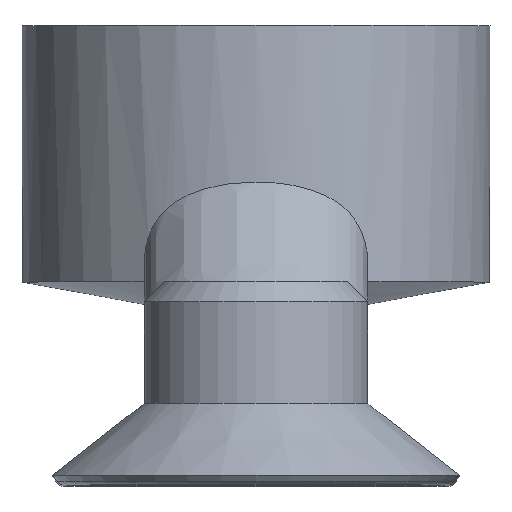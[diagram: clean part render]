
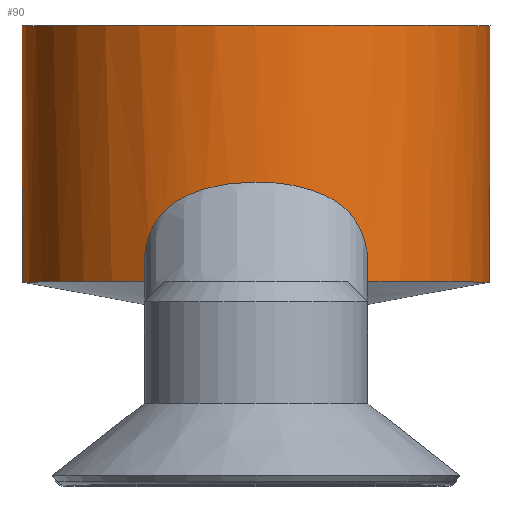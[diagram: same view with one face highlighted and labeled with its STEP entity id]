
A CAD part, top view. The second image highlights one B-rep face of the part: STEP entity #90.
In plain terms, the highlighted cylindrical face has radius 5.75 mm (diameter 11.5 mm), a full revolution.
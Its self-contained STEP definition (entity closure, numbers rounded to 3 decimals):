
#90=ADVANCED_FACE('',(#207,#208),#209,.T.);
#207=FACE_OUTER_BOUND('',#351,.T.);
#208=FACE_OUTER_BOUND('',#352,.T.);
#209=CYLINDRICAL_SURFACE('',#353,5.75);
#351=EDGE_LOOP('',(#605));
#352=EDGE_LOOP('',(#606,#607,#608,#609,#610,#611,#612,#613,#614,#615));
#353=AXIS2_PLACEMENT_3D('',#616,#617,#618);
#605=ORIENTED_EDGE('',*,*,#959,.T.);
#606=ORIENTED_EDGE('',*,*,#960,.T.);
#607=ORIENTED_EDGE('',*,*,#961,.T.);
#608=ORIENTED_EDGE('',*,*,#962,.T.);
#609=ORIENTED_EDGE('',*,*,#963,.F.);
#610=ORIENTED_EDGE('',*,*,#964,.F.);
#611=ORIENTED_EDGE('',*,*,#950,.F.);
#612=ORIENTED_EDGE('',*,*,#949,.F.);
#613=ORIENTED_EDGE('',*,*,#905,.F.);
#614=ORIENTED_EDGE('',*,*,#965,.F.);
#615=ORIENTED_EDGE('',*,*,#903,.T.);
#616=CARTESIAN_POINT('',(0.0,0.0,0.0));
#617=DIRECTION('',(0.0,1.0,0.0));
#618=DIRECTION('',(0.0,0.0,-1.0));
#903=EDGE_CURVE('',#1032,#1033,#1034,.T.);
#905=EDGE_CURVE('',#1035,#1037,#1038,.T.);
#949=EDGE_CURVE('',#1037,#1108,#1109,.T.);
#950=EDGE_CURVE('',#1108,#1110,#1111,.T.);
#959=EDGE_CURVE('',#1124,#1124,#1125,.T.);
#960=EDGE_CURVE('',#1033,#1126,#1127,.T.);
#961=EDGE_CURVE('',#1126,#1128,#1129,.T.);
#962=EDGE_CURVE('',#1128,#1130,#1131,.F.);
#963=EDGE_CURVE('',#1132,#1130,#1133,.F.);
#964=EDGE_CURVE('',#1110,#1132,#1134,.F.);
#965=EDGE_CURVE('',#1032,#1035,#1135,.F.);
#1032=VERTEX_POINT('',#1216);
#1033=VERTEX_POINT('',#1217);
#1034=LINE('',#1218,#1219);
#1035=VERTEX_POINT('',#1220);
#1037=VERTEX_POINT('',#1233);
#1038=LINE('',#1234,#1235);
#1108=VERTEX_POINT('',#1325);
#1109=B_SPLINE_CURVE_WITH_KNOTS('',3,(#1326,#1327,#1328,#1329,#1330,#1331,#1332,#1333,#1334,#1335,#1336,#1337,#1338,#1339,#1340,#1341,#1342,#1343,#1344),.UNSPECIFIED.,.F.,.F.,(4,1,1,1,1,1,1,1,1,1,1,1,1,1,1,1,4),(0.0,0.039,0.077,0.113,0.149,0.184,0.218,0.25,0.313,0.376,0.501,0.626,0.685,0.751,0.819,0.902,1.0),.UNSPECIFIED.);
#1110=VERTEX_POINT('',#1345);
#1111=B_SPLINE_CURVE_WITH_KNOTS('',3,(#1346,#1347,#1348,#1349,#1350,#1351,#1352,#1353,#1354,#1355,#1356,#1357,#1358,#1359,#1360,#1361,#1362,#1363),.UNSPECIFIED.,.F.,.F.,(4,1,1,1,1,1,1,1,1,1,1,1,1,1,1,4),(0.0,0.051,0.098,0.142,0.181,0.217,0.249,0.315,0.374,0.499,0.642,0.749,0.811,0.874,0.934,1.0),.UNSPECIFIED.);
#1124=VERTEX_POINT('',#1417);
#1125=CIRCLE('',#1418,5.75);
#1126=VERTEX_POINT('',#1419);
#1127=B_SPLINE_CURVE_WITH_KNOTS('',3,(#1420,#1421,#1422,#1423,#1424,#1425,#1426,#1427,#1428,#1429,#1430,#1431,#1432,#1433,#1434,#1435,#1436),.UNSPECIFIED.,.F.,.F.,(4,1,1,1,1,1,1,1,1,1,1,1,1,1,4),(0.0,0.038,0.076,0.112,0.147,0.182,0.216,0.251,0.371,0.501,0.62,0.751,0.832,0.915,1.0),.UNSPECIFIED.);
#1128=VERTEX_POINT('',#1437);
#1129=B_SPLINE_CURVE_WITH_KNOTS('',3,(#1438,#1439,#1440,#1441,#1442,#1443,#1444,#1445,#1446,#1447,#1448,#1449,#1450,#1451,#1452),.UNSPECIFIED.,.F.,.F.,(4,1,1,1,1,1,1,1,1,1,1,1,4),(0.0,0.051,0.102,0.151,0.2,0.249,0.38,0.499,0.629,0.749,0.829,0.912,1.0),.UNSPECIFIED.);
#1130=VERTEX_POINT('',#1453);
#1131=LINE('',#1454,#1455);
#1132=VERTEX_POINT('',#1456);
#1133=CIRCLE('',#1457,5.75);
#1134=LINE('',#1458,#1459);
#1135=CIRCLE('',#1460,5.75);
#1216=CARTESIAN_POINT('',(2.75,5.0,-5.05));
#1217=CARTESIAN_POINT('',(2.75,5.4,-5.05));
#1218=CARTESIAN_POINT('',(2.75,0.,-5.05));
#1219=VECTOR('',#1608,1.0);
#1220=CARTESIAN_POINT('',(2.75,5.0,5.05));
#1233=CARTESIAN_POINT('',(2.75,5.4,5.05));
#1234=CARTESIAN_POINT('',(2.75,0.,5.05));
#1235=VECTOR('',#1609,1.0);
#1325=CARTESIAN_POINT('',(0.,7.45,5.75));
#1326=CARTESIAN_POINT('',(2.75,5.4,5.05));
#1327=CARTESIAN_POINT('',(2.749,5.452,5.05));
#1328=CARTESIAN_POINT('',(2.748,5.553,5.051));
#1329=CARTESIAN_POINT('',(2.734,5.703,5.058));
#1330=CARTESIAN_POINT('',(2.712,5.846,5.07));
#1331=CARTESIAN_POINT('',(2.681,5.983,5.087));
#1332=CARTESIAN_POINT('',(2.641,6.113,5.108));
#1333=CARTESIAN_POINT('',(2.594,6.236,5.132));
#1334=CARTESIAN_POINT('',(2.522,6.387,5.168));
#1335=CARTESIAN_POINT('',(2.413,6.559,5.22));
#1336=CARTESIAN_POINT('',(2.205,6.801,5.313));
#1337=CARTESIAN_POINT('',(1.885,7.04,5.438));
#1338=CARTESIAN_POINT('',(1.525,7.202,5.548));
#1339=CARTESIAN_POINT('',(1.218,7.299,5.621));
#1340=CARTESIAN_POINT('',(0.974,7.358,5.669));
#1341=CARTESIAN_POINT('',(0.695,7.406,5.71));
#1342=CARTESIAN_POINT('',(0.369,7.442,5.743));
#1343=CARTESIAN_POINT('',(0.13,7.447,5.747));
#1344=CARTESIAN_POINT('',(0.,7.45,5.75));
#1345=CARTESIAN_POINT('',(-2.75,5.4,5.05));
#1346=CARTESIAN_POINT('',(0.,7.45,5.75));
#1347=CARTESIAN_POINT('',(-0.067,7.449,5.749));
#1348=CARTESIAN_POINT('',(-0.197,7.448,5.748));
#1349=CARTESIAN_POINT('',(-0.384,7.437,5.738));
#1350=CARTESIAN_POINT('',(-0.555,7.421,5.724));
#1351=CARTESIAN_POINT('',(-0.709,7.402,5.707));
#1352=CARTESIAN_POINT('',(-0.847,7.38,5.688));
#1353=CARTESIAN_POINT('',(-1.019,7.347,5.66));
#1354=CARTESIAN_POINT('',(-1.218,7.299,5.621));
#1355=CARTESIAN_POINT('',(-1.525,7.202,5.548));
#1356=CARTESIAN_POINT('',(-1.906,7.031,5.432));
#1357=CARTESIAN_POINT('',(-2.285,6.738,5.281));
#1358=CARTESIAN_POINT('',(-2.518,6.41,5.17));
#1359=CARTESIAN_POINT('',(-2.639,6.133,5.109));
#1360=CARTESIAN_POINT('',(-2.704,5.899,5.075));
#1361=CARTESIAN_POINT('',(-2.743,5.653,5.053));
#1362=CARTESIAN_POINT('',(-2.748,5.487,5.051));
#1363=CARTESIAN_POINT('',(-2.75,5.4,5.05));
#1417=CARTESIAN_POINT('',(0.0,11.3,-5.75));
#1418=AXIS2_PLACEMENT_3D('',#1672,#1673,#1674);
#1419=CARTESIAN_POINT('',(0.,7.45,-5.75));
#1420=CARTESIAN_POINT('',(2.75,5.4,-5.05));
#1421=CARTESIAN_POINT('',(2.749,5.451,-5.05));
#1422=CARTESIAN_POINT('',(2.748,5.551,-5.051));
#1423=CARTESIAN_POINT('',(2.734,5.698,-5.058));
#1424=CARTESIAN_POINT('',(2.713,5.84,-5.07));
#1425=CARTESIAN_POINT('',(2.683,5.976,-5.086));
#1426=CARTESIAN_POINT('',(2.644,6.107,-5.106));
#1427=CARTESIAN_POINT('',(2.595,6.233,-5.131));
#1428=CARTESIAN_POINT('',(2.49,6.453,-5.184));
#1429=CARTESIAN_POINT('',(2.273,6.75,-5.286));
#1430=CARTESIAN_POINT('',(1.896,7.033,-5.434));
#1431=CARTESIAN_POINT('',(1.455,7.235,-5.57));
#1432=CARTESIAN_POINT('',(1.04,7.348,-5.66));
#1433=CARTESIAN_POINT('',(0.66,7.411,-5.715));
#1434=CARTESIAN_POINT('',(0.334,7.444,-5.744));
#1435=CARTESIAN_POINT('',(0.112,7.448,-5.748));
#1436=CARTESIAN_POINT('',(0.,7.45,-5.75));
#1437=CARTESIAN_POINT('',(-2.75,5.4,-5.05));
#1438=CARTESIAN_POINT('',(0.0,7.45,-5.75));
#1439=CARTESIAN_POINT('',(-0.068,7.449,-5.749));
#1440=CARTESIAN_POINT('',(-0.202,7.448,-5.748));
#1441=CARTESIAN_POINT('',(-0.401,7.436,-5.737));
#1442=CARTESIAN_POINT('',(-0.597,7.417,-5.72));
#1443=CARTESIAN_POINT('',(-0.788,7.39,-5.697));
#1444=CARTESIAN_POINT('',(-1.081,7.337,-5.651));
#1445=CARTESIAN_POINT('',(-1.455,7.235,-5.57));
#1446=CARTESIAN_POINT('',(-1.896,7.033,-5.434));
#1447=CARTESIAN_POINT('',(-2.272,6.751,-5.286));
#1448=CARTESIAN_POINT('',(-2.525,6.407,-5.167));
#1449=CARTESIAN_POINT('',(-2.665,6.066,-5.096));
#1450=CARTESIAN_POINT('',(-2.738,5.742,-5.056));
#1451=CARTESIAN_POINT('',(-2.746,5.517,-5.052));
#1452=CARTESIAN_POINT('',(-2.75,5.4,-5.05));
#1453=CARTESIAN_POINT('',(-2.75,5.0,-5.05));
#1454=CARTESIAN_POINT('',(-2.75,0.,-5.05));
#1455=VECTOR('',#1675,1.0);
#1456=CARTESIAN_POINT('',(-2.75,5.0,5.05));
#1457=AXIS2_PLACEMENT_3D('',#1676,#1677,#1678);
#1458=CARTESIAN_POINT('',(-2.75,0.,5.05));
#1459=VECTOR('',#1679,1.0);
#1460=AXIS2_PLACEMENT_3D('',#1680,#1681,#1682);
#1608=DIRECTION('',(0.0,1.0,0.0));
#1609=DIRECTION('',(0.0,1.0,0.0));
#1672=CARTESIAN_POINT('',(0.0,11.3,0.0));
#1673=DIRECTION('',(0.0,-1.0,0.0));
#1674=DIRECTION('',(0.0,0.0,-1.0));
#1675=DIRECTION('',(0.0,1.0,0.0));
#1676=CARTESIAN_POINT('',(0.0,5.0,0.0));
#1677=DIRECTION('',(0.0,1.0,0.0));
#1678=DIRECTION('',(0.0,0.0,1.0));
#1679=DIRECTION('',(0.0,1.0,0.0));
#1680=CARTESIAN_POINT('',(0.0,5.0,0.0));
#1681=DIRECTION('',(0.0,1.0,0.0));
#1682=DIRECTION('',(0.0,0.0,1.0));
